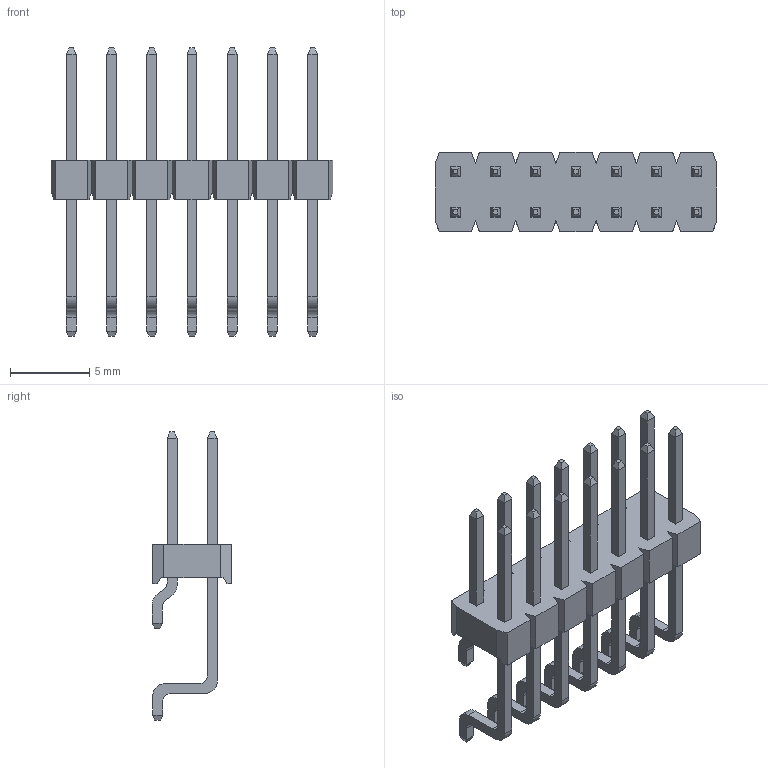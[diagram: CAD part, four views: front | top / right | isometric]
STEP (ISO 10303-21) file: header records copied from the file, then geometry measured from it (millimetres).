
FILE_DESCRIPTION(/* description */ (''),/* implementation_level */ '2;1');
FILE_NAME(/* name */ '961214-5900-XX-XX.stp',/* time_stamp */ '2008-06-11T13:26:17+02:00',/* author */ (''),/* organization */ (''),/* preprocessor_version */ 'ST-DEVELOPER v11',/* originating_system */ 'UGS - NX 5.0',/* authorisation */ '');
FILE_SCHEMA (('AUTOMOTIVE_DESIGN { 1 0 10303 214 1 1 1 1 }'));
Length unit declared in the file: millimetre
Products named in the file (1): 961214-5900-XX-XX
Bounding box: 17.78 x 5.02 x 18.2 mm (x, y, z)
Volume: 268.4 mm3; surface area: 828.7 mm2
Topology: 1 solids, 1 shells, 438 faces, 1112 edges, 704 vertices
Faces by surface type: plane 382, cylinder 56
Entity records: 12896 total; most frequent: CARTESIAN_POINT 2255, ORIENTED_EDGE 2224, DIRECTION 2102, EDGE_CURVE 1112, LINE 1000, VECTOR 1000, VERTEX_POINT 704, AXIS2_PLACEMENT_3D 551
